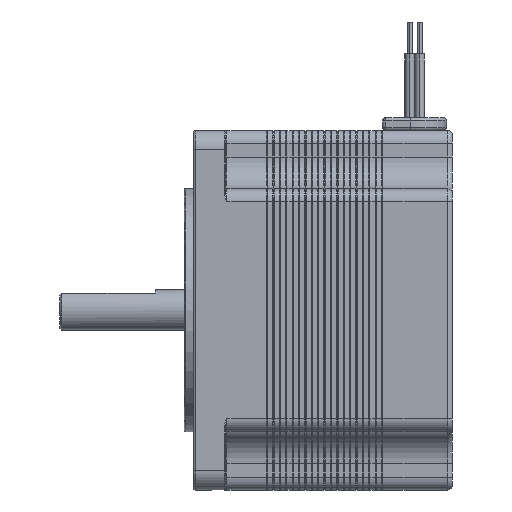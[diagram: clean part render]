
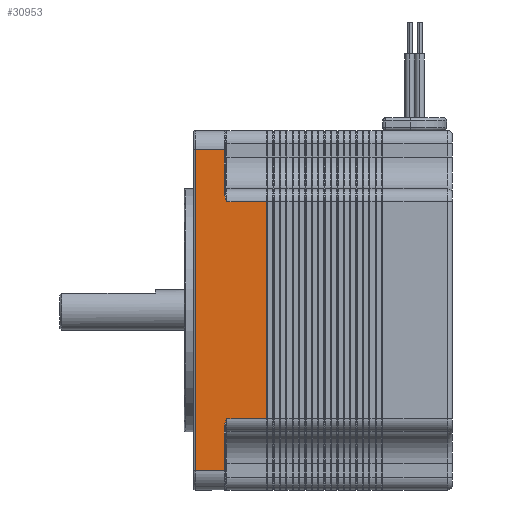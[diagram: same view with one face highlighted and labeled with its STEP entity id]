
A CAD part, left-side view. The second image highlights one B-rep face of the part: STEP entity #30953.
In plain terms, the highlighted planar face has unit normal (-1, 0, 0).
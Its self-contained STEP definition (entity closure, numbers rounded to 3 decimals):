
#105 = CARTESIAN_POINT ( 'NONE',  ( -28.15, 29.1, 17. ) ) ;
#641 = EDGE_CURVE ( 'NONE', #69256, #12880, #63119, .T. ) ;
#2003 = VERTEX_POINT ( 'NONE', #105 ) ;
#2236 = CARTESIAN_POINT ( 'NONE',  ( -28.15, 35.491, 17.403 ) ) ;
#3697 = VECTOR ( 'NONE', #37833, 1000. ) ;
#4342 = DIRECTION ( 'NONE',  ( 0., 0., -1. ) ) ;
#4840 = VERTEX_POINT ( 'NONE', #5746 ) ;
#5155 = CARTESIAN_POINT ( 'NONE',  ( -28.15, 35.7, -18.265 ) ) ;
#5746 = CARTESIAN_POINT ( 'NONE',  ( -28.15, 35.7, 18.265 ) ) ;
#8029 = CARTESIAN_POINT ( 'NONE',  ( -28.15, 35.7, -17. ) ) ;
#8156 = VECTOR ( 'NONE', #4342, 1000. ) ;
#8401 = VERTEX_POINT ( 'NONE', #70868 ) ;
#9699 = DIRECTION ( 'NONE',  ( 0., 0., 1. ) ) ;
#10826 = B_SPLINE_CURVE_WITH_KNOTS ( 'NONE', 3,
 ( #23321, #24361, #2236, #40841, #61620, #67382 ),
 .UNSPECIFIED., .F., .F.,
 ( 4, 2, 4 ),
 ( 0., 0.001, 0.001 ),
 .UNSPECIFIED. ) ;
#12536 = CARTESIAN_POINT ( 'NONE',  ( -28.15, 35.7, -17. ) ) ;
#12880 = VERTEX_POINT ( 'NONE', #5155 ) ;
#14871 = ORIENTED_EDGE ( 'NONE', *, *, #68635, .F. ) ;
#15372 = LINE ( 'NONE', #59645, #3697 ) ;
#15432 = CARTESIAN_POINT ( 'NONE',  ( -28.15, 29.1, -17. ) ) ;
#15546 = AXIS2_PLACEMENT_3D ( 'NONE', #50650, #61732, #23431 ) ;
#16368 = CARTESIAN_POINT ( 'NONE',  ( -28.15, 35.7, -18.04 ) ) ;
#19097 = DIRECTION ( 'NONE',  ( 0., 1., 0. ) ) ;
#19978 = EDGE_CURVE ( 'NONE', #8401, #2003, #70152, .T. ) ;
#20440 = CARTESIAN_POINT ( 'NONE',  ( -28.15, 40.3, -25.15 ) ) ;
#20910 = EDGE_CURVE ( 'NONE', #4840, #29105, #22873, .T. ) ;
#20975 = ORIENTED_EDGE ( 'NONE', *, *, #39002, .F. ) ;
#21854 = VECTOR ( 'NONE', #58329, 1000. ) ;
#22873 = LINE ( 'NONE', #12536, #40612 ) ;
#23321 = CARTESIAN_POINT ( 'NONE',  ( -28.15, 35.3, 17. ) ) ;
#23431 = DIRECTION ( 'NONE',  ( 0., 0., -1. ) ) ;
#24361 = CARTESIAN_POINT ( 'NONE',  ( -28.15, 35.395, 17.202 ) ) ;
#25376 = CARTESIAN_POINT ( 'NONE',  ( -28.15, 35.3, -17. ) ) ;
#25503 = ORIENTED_EDGE ( 'NONE', *, *, #641, .T. ) ;
#28800 = PLANE ( 'NONE',  #15546 ) ;
#29105 = VERTEX_POINT ( 'NONE', #29847 ) ;
#29303 = EDGE_CURVE ( 'NONE', #59695, #4840, #10826, .T. ) ;
#29418 = ORIENTED_EDGE ( 'NONE', *, *, #29303, .T. ) ;
#29847 = CARTESIAN_POINT ( 'NONE',  ( -28.15, 35.7, 25.15 ) ) ;
#30771 = CARTESIAN_POINT ( 'NONE',  ( -28.15, 35.642, -17.823 ) ) ;
#30953 = ADVANCED_FACE ( 'NONE', ( #66770 ), #28800, .F. ) ;
#31955 = CARTESIAN_POINT ( 'NONE',  ( -28.15, 35.7, -25.15 ) ) ;
#33604 = ORIENTED_EDGE ( 'NONE', *, *, #68661, .T. ) ;
#34480 = CARTESIAN_POINT ( 'NONE',  ( -28.15, 40.3, 25.15 ) ) ;
#35076 = CARTESIAN_POINT ( 'NONE',  ( -28.15, 40.3, -25.15 ) ) ;
#36150 = VERTEX_POINT ( 'NONE', #65439 ) ;
#36211 = ORIENTED_EDGE ( 'NONE', *, *, #60439, .T. ) ;
#36236 = LINE ( 'NONE', #68151, #67955 ) ;
#37833 = DIRECTION ( 'NONE',  ( 0., -1., 0. ) ) ;
#38128 = CARTESIAN_POINT ( 'NONE',  ( -28.15, 35.395, -17.201 ) ) ;
#39002 = EDGE_CURVE ( 'NONE', #69256, #40599, #36236, .T. ) ;
#39286 = CARTESIAN_POINT ( 'NONE',  ( -28.15, 35.3, 17. ) ) ;
#40376 = EDGE_LOOP ( 'NONE', ( #57168, #33604, #20975, #25503, #61773, #36211, #44855, #14871, #29418, #57913 ) ) ;
#40599 = VERTEX_POINT ( 'NONE', #35076 ) ;
#40612 = VECTOR ( 'NONE', #44650, 1000. ) ;
#40841 = CARTESIAN_POINT ( 'NONE',  ( -28.15, 35.642, 17.823 ) ) ;
#43157 = LINE ( 'NONE', #70763, #60556 ) ;
#44202 = DIRECTION ( 'NONE',  ( 0., 1., 0. ) ) ;
#44650 = DIRECTION ( 'NONE',  ( 0., 0., 1. ) ) ;
#44825 = VECTOR ( 'NONE', #52381, 1000. ) ;
#44855 = ORIENTED_EDGE ( 'NONE', *, *, #19978, .T. ) ;
#47112 = VERTEX_POINT ( 'NONE', #34480 ) ;
#50650 = CARTESIAN_POINT ( 'NONE',  ( -28.15, 40.5, -17. ) ) ;
#50657 = B_SPLINE_CURVE_WITH_KNOTS ( 'NONE', 3,
 ( #70731, #16368, #30771, #58286, #38128, #25376 ),
 .UNSPECIFIED., .F., .F.,
 ( 4, 2, 4 ),
 ( 0., 0.001, 0.001 ),
 .UNSPECIFIED. ) ;
#52381 = DIRECTION ( 'NONE',  ( 0., 0., 1. ) ) ;
#57168 = ORIENTED_EDGE ( 'NONE', *, *, #68194, .T. ) ;
#57913 = ORIENTED_EDGE ( 'NONE', *, *, #20910, .T. ) ;
#58286 = CARTESIAN_POINT ( 'NONE',  ( -28.15, 35.491, -17.403 ) ) ;
#58329 = DIRECTION ( 'NONE',  ( 0., -1., 0. ) ) ;
#59645 = CARTESIAN_POINT ( 'NONE',  ( -28.15, 40.5, -17. ) ) ;
#59695 = VERTEX_POINT ( 'NONE', #39286 ) ;
#60439 = EDGE_CURVE ( 'NONE', #36150, #8401, #15372, .T. ) ;
#60556 = VECTOR ( 'NONE', #44202, 1000. ) ;
#61620 = CARTESIAN_POINT ( 'NONE',  ( -28.15, 35.7, 18.04 ) ) ;
#61732 = DIRECTION ( 'NONE',  ( 1., 0., 0. ) ) ;
#61773 = ORIENTED_EDGE ( 'NONE', *, *, #63918, .T. ) ;
#63119 = LINE ( 'NONE', #8029, #44825 ) ;
#63734 = LINE ( 'NONE', #69134, #21854 ) ;
#63918 = EDGE_CURVE ( 'NONE', #12880, #36150, #50657, .T. ) ;
#64406 = VECTOR ( 'NONE', #9699, 1000. ) ;
#65439 = CARTESIAN_POINT ( 'NONE',  ( -28.15, 35.3, -17. ) ) ;
#66770 = FACE_OUTER_BOUND ( 'NONE', #40376, .T. ) ;
#67382 = CARTESIAN_POINT ( 'NONE',  ( -28.15, 35.7, 18.265 ) ) ;
#67955 = VECTOR ( 'NONE', #19097, 1000. ) ;
#68151 = CARTESIAN_POINT ( 'NONE',  ( -28.15, 35.5, -25.15 ) ) ;
#68194 = EDGE_CURVE ( 'NONE', #29105, #47112, #43157, .T. ) ;
#68635 = EDGE_CURVE ( 'NONE', #59695, #2003, #63734, .T. ) ;
#68661 = EDGE_CURVE ( 'NONE', #47112, #40599, #69474, .T. ) ;
#69134 = CARTESIAN_POINT ( 'NONE',  ( -28.15, 40.5, 17. ) ) ;
#69256 = VERTEX_POINT ( 'NONE', #31955 ) ;
#69474 = LINE ( 'NONE', #20440, #8156 ) ;
#70152 = LINE ( 'NONE', #15432, #64406 ) ;
#70731 = CARTESIAN_POINT ( 'NONE',  ( -28.15, 35.7, -18.265 ) ) ;
#70763 = CARTESIAN_POINT ( 'NONE',  ( -28.15, 35.5, 25.15 ) ) ;
#70868 = CARTESIAN_POINT ( 'NONE',  ( -28.15, 29.1, -17. ) ) ;
